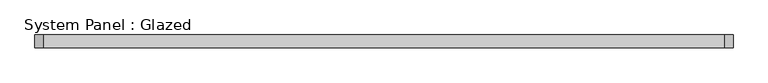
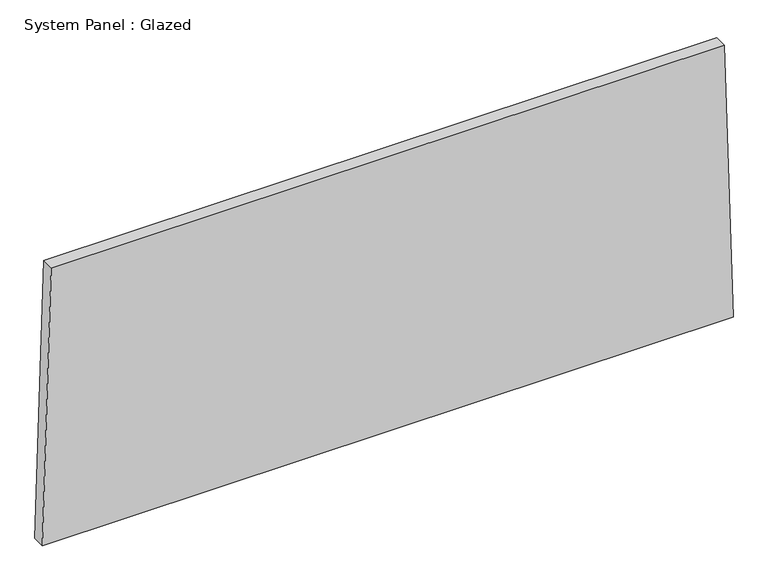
"""IFC4 building model written with IfcOpenShell, lengths in millimetres: plate geometry, System Panel : Glazed."""

from ifc_helpers import new_model, si_unit, frame, origin, place, context, project, spatial, polyline, outline, extrude, source, transform, mapped, element, save


def system_panel_glazed_96e6ccbe(model_context):
    return source(origin(), model_context, "Body", "SweptSolid", [
        extrude(outline(polyline([(0.0, -693.1618305), (0.0, 693.1618305), (583.9195406, 675.4431881), (583.9195406, -675.4431881), (0.0, -693.1618305)])), frame((0.0, -44.45, 0.0), z_axis=(0.0, 1.0, 0.0), x_axis=(0.0, 0.0, 1.0)), (0.0, 0.0, 1.0), 25.4),
    ])


if __name__ == "__main__":
    model = new_model("IFC4")
    model_context = context("Model", 3, world=origin())
    ifc_project = project(units=[si_unit("LENGTHUNIT", "METRE", prefix="MILLI")], contexts=[model_context])
    site = spatial("IfcSite", under=ifc_project)
    building = spatial("IfcBuilding", under=site)
    placement = place(None, origin())
    system_panel_glazed_shape = system_panel_glazed_96e6ccbe(model_context)
    element("IfcPlate", 1, ObjectType="System Panel : Glazed", at=placement, inside=building, context=model_context, shape_type="MappedRepresentation", body=[
        mapped(system_panel_glazed_shape, transform((0.0, 0.0, 0.0), x_axis=(1.0, 0.0, 0.0), y_axis=(0.0, 1.0, 0.0), z_axis=(0.0, 0.0, 1.0))),
    ])
    save(model, "model.ifc")
